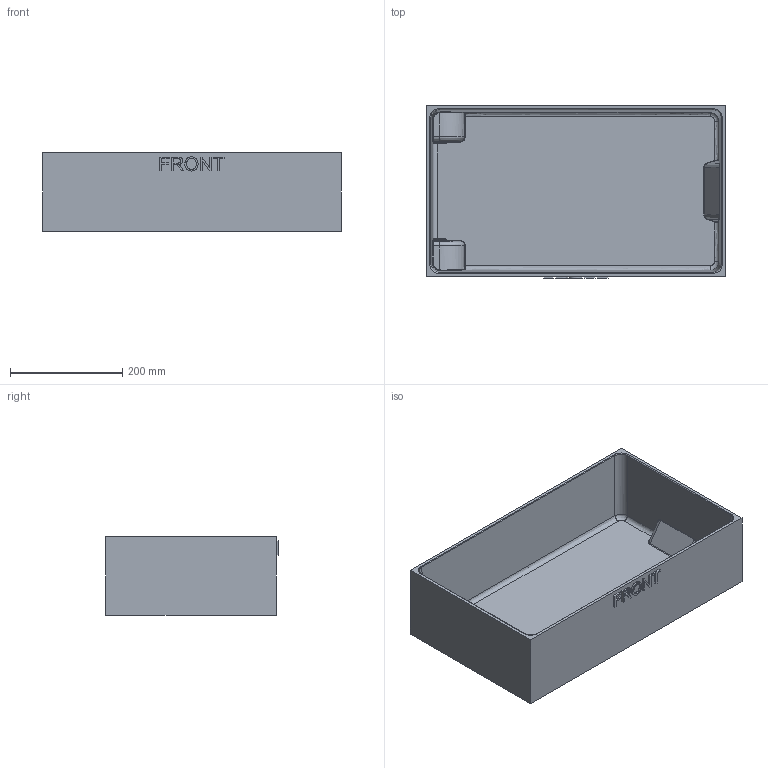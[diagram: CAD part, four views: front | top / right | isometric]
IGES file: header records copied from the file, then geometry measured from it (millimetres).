
Start section: Comment
Global section: file name: 2500-base_internal_tub.igs; native system:  By UGS Corp.; preprocessor: XPlus GENERIC/IGES 3.0; author: Author; organization: Title; date: 20100513.101550; units: millimetre
Bounding box: 533.4 x 307.98 x 139.7 mm (x, y, z)
Surface area: 759784.9 mm2 (no closed solid volume)
Topology: 0 solids, 0 shells, 170 faces, 1027 edges, 1023 vertices
Faces by surface type: bspline 170
